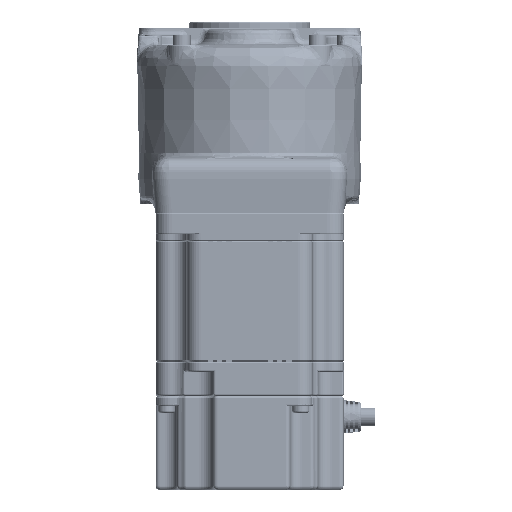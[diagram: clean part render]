
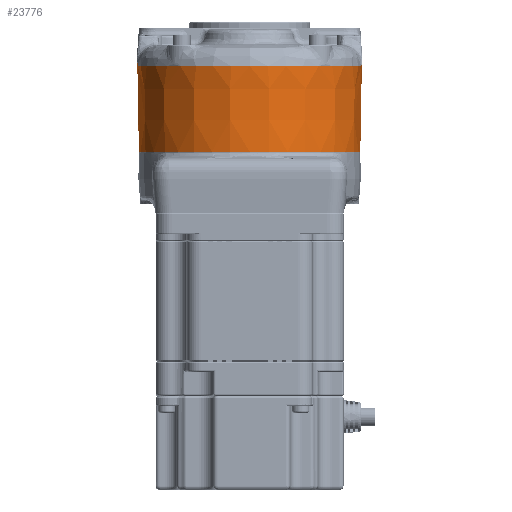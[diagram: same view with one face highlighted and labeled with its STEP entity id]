
A CAD part, front view. The second image highlights one B-rep face of the part: STEP entity #23776.
In plain terms, the highlighted conical face has half-angle 1 degrees and reference radius 53.793 mm.
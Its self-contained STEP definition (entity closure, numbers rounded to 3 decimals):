
#2000 = EDGE_CURVE ( 'NONE', #25914, #133246, #119945, .T. ) ;
#2175 = DIRECTION ( 'NONE',  ( 1., 0., 0. ) ) ;
#2229 = DIRECTION ( 'NONE',  ( 0., 0., 1. ) ) ;
#2653 = CARTESIAN_POINT ( 'NONE',  ( -53.603, -86.641, 41.422 ) ) ;
#5801 = CARTESIAN_POINT ( 'NONE',  ( 53.788, -83., 45.164 ) ) ;
#8158 = ORIENTED_EDGE ( 'NONE', *, *, #106878, .F. ) ;
#9371 = DIRECTION ( 'NONE',  ( 1., 0., 0. ) ) ;
#9536 = VERTEX_POINT ( 'NONE', #115141 ) ;
#11786 = EDGE_CURVE ( 'NONE', #9536, #91015, #65045, .T. ) ;
#12437 = CARTESIAN_POINT ( 'NONE',  ( 53.774, -83.571, 44.539 ) ) ;
#13299 = CARTESIAN_POINT ( 'NONE',  ( -53.542, -87.282, 40.825 ) ) ;
#16028 = AXIS2_PLACEMENT_3D ( 'NONE', #39355, #135465, #9371 ) ;
#17167 = B_SPLINE_CURVE_WITH_KNOTS ( 'NONE', 3,
 ( #18720, #92426, #114895, #114422 ),
 .UNSPECIFIED., .F., .F.,
 ( 4, 4 ),
 ( 0., 1. ),
 .UNSPECIFIED. ) ;
#17644 = ORIENTED_EDGE ( 'NONE', *, *, #23874, .F. ) ;
#18031 = CIRCLE ( 'NONE', #16028, 53. ) ;
#18720 = CARTESIAN_POINT ( 'NONE',  ( 53.774, -83.571, 44.539 ) ) ;
#21376 = ORIENTED_EDGE ( 'NONE', *, *, #111126, .F. ) ;
#21495 = CARTESIAN_POINT ( 'NONE',  ( 53.774, -83.571, 44.539 ) ) ;
#22967 = CARTESIAN_POINT ( 'NONE',  ( 0., -83., 45.435 ) ) ;
#23776 = ADVANCED_FACE ( 'NONE', ( #80929 ), #130230, .T. ) ;
#23874 = EDGE_CURVE ( 'NONE', #68189, #93013, #67833, .T. ) ;
#24038 = DIRECTION ( 'NONE',  ( -0.017, 0., -1. ) ) ;
#24047 = CARTESIAN_POINT ( 'NONE',  ( 53., -83., 0. ) ) ;
#25914 = VERTEX_POINT ( 'NONE', #55828 ) ;
#29396 = ORIENTED_EDGE ( 'NONE', *, *, #2000, .T. ) ;
#35347 = B_SPLINE_CURVE_WITH_KNOTS ( 'NONE', 3,
 ( #112809, #81579, #70044, #49777 ),
 .UNSPECIFIED., .F., .F.,
 ( 4, 4 ),
 ( 0., 1. ),
 .UNSPECIFIED. ) ;
#37217 = ORIENTED_EDGE ( 'NONE', *, *, #43810, .F. ) ;
#39355 = CARTESIAN_POINT ( 'NONE',  ( 0., -83., 0. ) ) ;
#43810 = EDGE_CURVE ( 'NONE', #52714, #127021, #123462, .T. ) ;
#44203 = DIRECTION ( 'NONE',  ( 1., 0., 0. ) ) ;
#44610 = CARTESIAN_POINT ( 'NONE',  ( -53.757, -84.151, 43.884 ) ) ;
#46003 = CARTESIAN_POINT ( 'NONE',  ( -53.397, -83., 22.717 ) ) ;
#49777 = CARTESIAN_POINT ( 'NONE',  ( -53.774, -83.571, 44.539 ) ) ;
#52714 = VERTEX_POINT ( 'NONE', #5801 ) ;
#53888 = CARTESIAN_POINT ( 'NONE',  ( 0., -83., 40.825 ) ) ;
#55828 = CARTESIAN_POINT ( 'NONE',  ( -53.788, -83., 45.164 ) ) ;
#64921 = CARTESIAN_POINT ( 'NONE',  ( 53.653, -86.004, 42.022 ) ) ;
#65045 = B_SPLINE_CURVE_WITH_KNOTS ( 'NONE', 3,
 ( #76017, #127049, #64921, #107701, #96258, #12437 ),
 .UNSPECIFIED., .F., .F.,
 ( 4, 2, 4 ),
 ( 0., 0.5, 1. ),
 .UNSPECIFIED. ) ;
#65911 = VECTOR ( 'NONE', #24038, 1000. ) ;
#67833 = B_SPLINE_CURVE_WITH_KNOTS ( 'NONE', 3,
 ( #118703, #44610, #128802, #130596, #2653, #13299 ),
 .UNSPECIFIED., .F., .F.,
 ( 4, 2, 4 ),
 ( 0., 0.5, 1. ),
 .UNSPECIFIED. ) ;
#68189 = VERTEX_POINT ( 'NONE', #133088 ) ;
#68225 = CARTESIAN_POINT ( 'NONE',  ( -53.542, -87.282, 40.825 ) ) ;
#70044 = CARTESIAN_POINT ( 'NONE',  ( -53.78, -83.384, 44.75 ) ) ;
#71423 = AXIS2_PLACEMENT_3D ( 'NONE', #22967, #127895, #2175 ) ;
#76017 = CARTESIAN_POINT ( 'NONE',  ( 53.542, -87.282, 40.825 ) ) ;
#80929 = FACE_OUTER_BOUND ( 'NONE', #130228, .T. ) ;
#81579 = CARTESIAN_POINT ( 'NONE',  ( -53.785, -83.193, 44.958 ) ) ;
#83677 = AXIS2_PLACEMENT_3D ( 'NONE', #53888, #2229, #44203 ) ;
#86717 = CARTESIAN_POINT ( 'NONE',  ( 53., -83., 0. ) ) ;
#91015 = VERTEX_POINT ( 'NONE', #21495 ) ;
#92426 = CARTESIAN_POINT ( 'NONE',  ( 53.78, -83.384, 44.75 ) ) ;
#93013 = VERTEX_POINT ( 'NONE', #68225 ) ;
#96258 = CARTESIAN_POINT ( 'NONE',  ( 53.757, -84.151, 43.884 ) ) ;
#103605 = ORIENTED_EDGE ( 'NONE', *, *, #103909, .T. ) ;
#103909 = EDGE_CURVE ( 'NONE', #133246, #127021, #18031, .T. ) ;
#106878 = EDGE_CURVE ( 'NONE', #25914, #68189, #35347, .T. ) ;
#107701 = CARTESIAN_POINT ( 'NONE',  ( 53.73, -84.759, 43.254 ) ) ;
#110723 = CIRCLE ( 'NONE', #83677, 53.713 ) ;
#111126 = EDGE_CURVE ( 'NONE', #91015, #52714, #17167, .T. ) ;
#111580 = VECTOR ( 'NONE', #132918, 1000. ) ;
#112809 = CARTESIAN_POINT ( 'NONE',  ( -53.788, -83., 45.164 ) ) ;
#114422 = CARTESIAN_POINT ( 'NONE',  ( 53.788, -83., 45.164 ) ) ;
#114895 = CARTESIAN_POINT ( 'NONE',  ( 53.785, -83.193, 44.958 ) ) ;
#115141 = CARTESIAN_POINT ( 'NONE',  ( 53.542, -87.282, 40.825 ) ) ;
#118703 = CARTESIAN_POINT ( 'NONE',  ( -53.774, -83.571, 44.539 ) ) ;
#118992 = EDGE_CURVE ( 'NONE', #93013, #9536, #110723, .T. ) ;
#119945 = LINE ( 'NONE', #46003, #111580 ) ;
#123211 = ORIENTED_EDGE ( 'NONE', *, *, #11786, .F. ) ;
#123462 = LINE ( 'NONE', #86717, #65911 ) ;
#125028 = ORIENTED_EDGE ( 'NONE', *, *, #118992, .F. ) ;
#127021 = VERTEX_POINT ( 'NONE', #24047 ) ;
#127049 = CARTESIAN_POINT ( 'NONE',  ( 53.603, -86.641, 41.422 ) ) ;
#127895 = DIRECTION ( 'NONE',  ( 0., 0., 1. ) ) ;
#128025 = CARTESIAN_POINT ( 'NONE',  ( -53., -83., 0. ) ) ;
#128802 = CARTESIAN_POINT ( 'NONE',  ( -53.73, -84.759, 43.254 ) ) ;
#130228 = EDGE_LOOP ( 'NONE', ( #103605, #37217, #21376, #123211, #125028, #17644, #8158, #29396 ) ) ;
#130230 = CONICAL_SURFACE ( 'NONE', #71423, 53.793, 0.017 ) ;
#130596 = CARTESIAN_POINT ( 'NONE',  ( -53.653, -86.004, 42.022 ) ) ;
#132918 = DIRECTION ( 'NONE',  ( 0.017, 0., -1. ) ) ;
#133088 = CARTESIAN_POINT ( 'NONE',  ( -53.774, -83.571, 44.539 ) ) ;
#133246 = VERTEX_POINT ( 'NONE', #128025 ) ;
#135465 = DIRECTION ( 'NONE',  ( 0., 0., 1. ) ) ;
